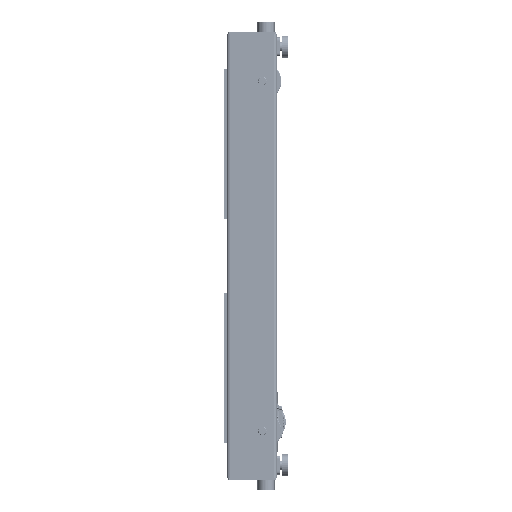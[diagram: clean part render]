
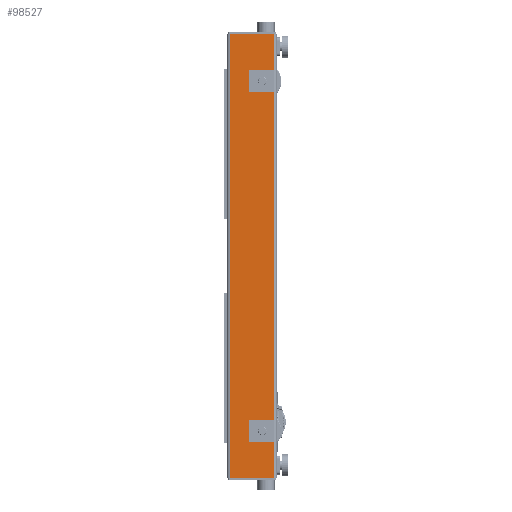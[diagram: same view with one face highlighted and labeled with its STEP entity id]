
A CAD part, left-side view. The second image highlights one B-rep face of the part: STEP entity #98527.
In plain terms, the highlighted planar face has unit normal (-1, 0, 0).
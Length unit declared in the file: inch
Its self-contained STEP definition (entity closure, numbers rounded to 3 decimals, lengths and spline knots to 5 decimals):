
#4392 = DIRECTION ( 'NONE',  ( 0., 0., -1. ) ) ;
#9007 = LINE ( 'NONE', #110573, #16763 ) ;
#9953 = DIRECTION ( 'NONE',  ( 0., 0., -1. ) ) ;
#10914 = EDGE_CURVE ( 'NONE', #61879, #160817, #132620, .T. ) ;
#16763 = VECTOR ( 'NONE', #9953, 39.37008 ) ;
#18931 = EDGE_CURVE ( 'NONE', #56337, #112134, #36335, .T. ) ;
#20257 = DIRECTION ( 'NONE',  ( 0., 1., 0. ) ) ;
#20805 = CARTESIAN_POINT ( 'NONE',  ( 0., 0.5, 35.5625 ) ) ;
#30904 = EDGE_CURVE ( 'NONE', #41325, #119817, #97730, .T. ) ;
#32421 = ORIENTED_EDGE ( 'NONE', *, *, #30904, .F. ) ;
#36335 = CIRCLE ( 'NONE', #146384, 0.69 ) ;
#38931 = VECTOR ( 'NONE', #55284, 39.37008 ) ;
#40658 = ORIENTED_EDGE ( 'NONE', *, *, #72749, .T. ) ;
#41325 = VERTEX_POINT ( 'NONE', #154422 ) ;
#44588 = EDGE_CURVE ( 'NONE', #112134, #56337, #132431, .T. ) ;
#47011 = CIRCLE ( 'NONE', #172879, 0.69 ) ;
#47882 = LINE ( 'NONE', #107940, #73436 ) ;
#51080 = CARTESIAN_POINT ( 'NONE',  ( 0., 2.326, 27.9995 ) ) ;
#55284 = DIRECTION ( 'NONE',  ( 0., -1., 0. ) ) ;
#56337 = VERTEX_POINT ( 'NONE', #180038 ) ;
#58149 = CARTESIAN_POINT ( 'NONE',  ( 0., 2.326, 27.3095 ) ) ;
#61245 = CARTESIAN_POINT ( 'NONE',  ( 0., 2.326, 28.6895 ) ) ;
#61879 = VERTEX_POINT ( 'NONE', #61245 ) ;
#67061 = FACE_OUTER_BOUND ( 'NONE', #187524, .T. ) ;
#67610 = EDGE_LOOP ( 'NONE', ( #106137, #117160 ) ) ;
#69588 = CARTESIAN_POINT ( 'NONE',  ( 0., 2.326, -28.0005 ) ) ;
#72749 = EDGE_CURVE ( 'NONE', #41325, #121631, #9007, .T. ) ;
#73436 = VECTOR ( 'NONE', #168073, 39.37008 ) ;
#85342 = EDGE_CURVE ( 'NONE', #121631, #161650, #47882, .T. ) ;
#91054 = CARTESIAN_POINT ( 'NONE',  ( 0., 7.5, -35.5625 ) ) ;
#92043 = FACE_BOUND ( 'NONE', #178671, .T. ) ;
#95173 = DIRECTION ( 'NONE',  ( 1., 0., 0. ) ) ;
#97730 = LINE ( 'NONE', #190278, #38931 ) ;
#98527 = ADVANCED_FACE ( 'NONE', ( #165965, #92043, #67061 ), #155791, .F. ) ;
#100126 = DIRECTION ( 'NONE',  ( 1., 0., 0. ) ) ;
#100928 = EDGE_CURVE ( 'NONE', #160817, #61879, #47011, .T. ) ;
#106137 = ORIENTED_EDGE ( 'NONE', *, *, #44588, .T. ) ;
#107940 = CARTESIAN_POINT ( 'NONE',  ( 0., 0.5, -35.5625 ) ) ;
#110573 = CARTESIAN_POINT ( 'NONE',  ( 0., 7.5, 35.5625 ) ) ;
#111157 = DIRECTION ( 'NONE',  ( 0., 1., 0. ) ) ;
#112134 = VERTEX_POINT ( 'NONE', #116925 ) ;
#115234 = CARTESIAN_POINT ( 'NONE',  ( 0., 2.326, 27.9995 ) ) ;
#115717 = AXIS2_PLACEMENT_3D ( 'NONE', #20805, #127161, #116245 ) ;
#116245 = DIRECTION ( 'NONE',  ( 0., 1., 0. ) ) ;
#116925 = CARTESIAN_POINT ( 'NONE',  ( 0., 2.326, -28.6905 ) ) ;
#117160 = ORIENTED_EDGE ( 'NONE', *, *, #18931, .T. ) ;
#119609 = VECTOR ( 'NONE', #4392, 39.37008 ) ;
#119781 = CARTESIAN_POINT ( 'NONE',  ( 0., 0.5, 35.5625 ) ) ;
#119817 = VERTEX_POINT ( 'NONE', #119781 ) ;
#121631 = VERTEX_POINT ( 'NONE', #91054 ) ;
#126155 = ORIENTED_EDGE ( 'NONE', *, *, #85342, .T. ) ;
#127161 = DIRECTION ( 'NONE',  ( 1., 0., 0. ) ) ;
#132431 = CIRCLE ( 'NONE', #167119, 0.69 ) ;
#132620 = CIRCLE ( 'NONE', #142067, 0.69 ) ;
#133865 = DIRECTION ( 'NONE',  ( 0., 1., 0. ) ) ;
#137307 = ORIENTED_EDGE ( 'NONE', *, *, #10914, .T. ) ;
#142027 = CARTESIAN_POINT ( 'NONE',  ( 0., 0.5, -35.5625 ) ) ;
#142067 = AXIS2_PLACEMENT_3D ( 'NONE', #115234, #162537, #133865 ) ;
#146384 = AXIS2_PLACEMENT_3D ( 'NONE', #157193, #95173, #20257 ) ;
#147286 = EDGE_CURVE ( 'NONE', #119817, #161650, #169948, .T. ) ;
#154422 = CARTESIAN_POINT ( 'NONE',  ( 0., 7.5, 35.5625 ) ) ;
#155791 = PLANE ( 'NONE',  #115717 ) ;
#157193 = CARTESIAN_POINT ( 'NONE',  ( 0., 2.326, -28.0005 ) ) ;
#160252 = DIRECTION ( 'NONE',  ( 0., 1., 0. ) ) ;
#160817 = VERTEX_POINT ( 'NONE', #58149 ) ;
#161650 = VERTEX_POINT ( 'NONE', #142027 ) ;
#162537 = DIRECTION ( 'NONE',  ( 1., 0., 0. ) ) ;
#165965 = FACE_BOUND ( 'NONE', #67610, .T. ) ;
#167119 = AXIS2_PLACEMENT_3D ( 'NONE', #69588, #100126, #160252 ) ;
#168073 = DIRECTION ( 'NONE',  ( 0., -1., 0. ) ) ;
#169948 = LINE ( 'NONE', #183736, #119609 ) ;
#172879 = AXIS2_PLACEMENT_3D ( 'NONE', #51080, #186989, #111157 ) ;
#177819 = ORIENTED_EDGE ( 'NONE', *, *, #147286, .F. ) ;
#178671 = EDGE_LOOP ( 'NONE', ( #185384, #137307 ) ) ;
#180038 = CARTESIAN_POINT ( 'NONE',  ( 0., 2.326, -27.3105 ) ) ;
#183736 = CARTESIAN_POINT ( 'NONE',  ( 0., 0.5, 35.5625 ) ) ;
#185384 = ORIENTED_EDGE ( 'NONE', *, *, #100928, .T. ) ;
#186989 = DIRECTION ( 'NONE',  ( 1., 0., 0. ) ) ;
#187524 = EDGE_LOOP ( 'NONE', ( #126155, #177819, #32421, #40658 ) ) ;
#190278 = CARTESIAN_POINT ( 'NONE',  ( 0., 0.5, 35.5625 ) ) ;
